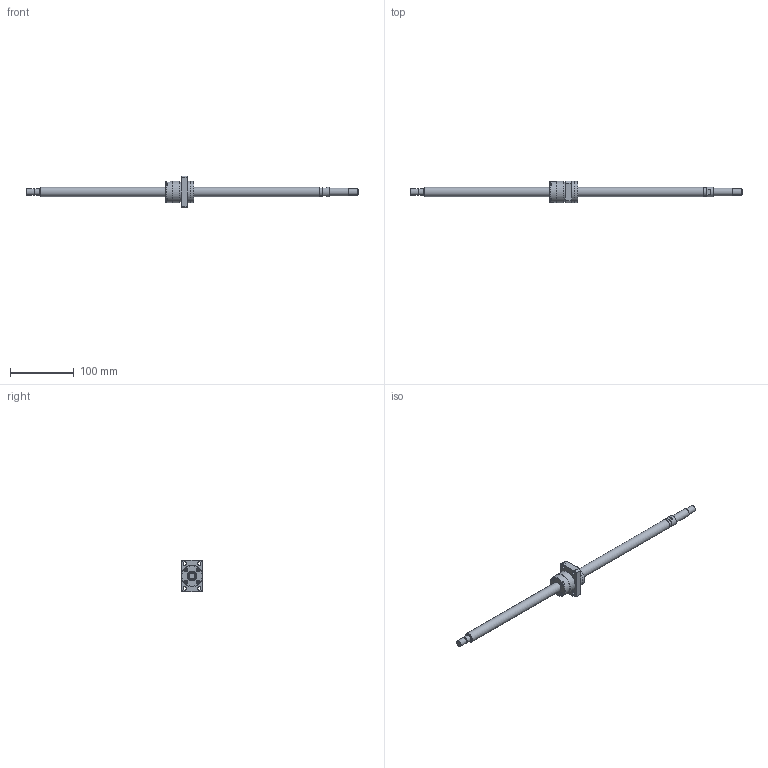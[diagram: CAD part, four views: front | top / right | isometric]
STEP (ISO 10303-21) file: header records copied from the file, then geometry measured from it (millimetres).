
FILE_DESCRIPTION(/* description */ ('STEP AP203'),/* implementation_level */ '2;1');
FILE_NAME(/* name */ 'BNK1510-5.6G0+521LC5Y(241.50)',/* time_stamp */ '2024-07-09T09:22:54+02:00',/* author */ ('License CC BY-ND 4.0'),/* organization */ ('CADENAS'),/* preprocessor_version */ 'ST-DEVELOPER v19.3',/* originating_system */ 'PARTsolutions',/* authorisation */ ' ');
FILE_SCHEMA (('CONFIG_CONTROL_DESIGN'));
Length unit declared in the file: millimetre
Products named in the file (3): BNK1510-5.6G0+521LC5Y(241.50); BNK 1510-5.6G0+521LC5Y Shaft; BNK 1510-5.6G0+521LC5Y0 Nut
Assembly tree (2 placements, depth 2):
  BNK1510-5.6G0+521LC5Y(241.50)
    BNK 1510-5.6G0+521LC5Y Shaft
    BNK 1510-5.6G0+521LC5Y0 Nut
Bounding box: 521 x 34 x 50 mm (x, y, z)
Volume: 122671 mm3; surface area: 35840.2 mm2
Topology: 2 solids, 2 shells, 137 faces, 313 edges, 202 vertices
Faces by surface type: plane 76, cylinder 35, cone 20, torus 6
Full cylindrical faces by diameter (mm): 5.188 x1, 5.5 x8, 9.5 x4, 9.6 x1, 10 x3, 12 x1, 13 x1, 15 x3, 30.6 x1, 33 x2, 34 x2
Entity records: 3729 total; most frequent: CARTESIAN_POINT 677, DIRECTION 632, ORIENTED_EDGE 534, EDGE_CURVE 267, AXIS2_PLACEMENT_3D 249, FACE_BOUND 211, EDGE_LOOP 210, VERTEX_POINT 198
